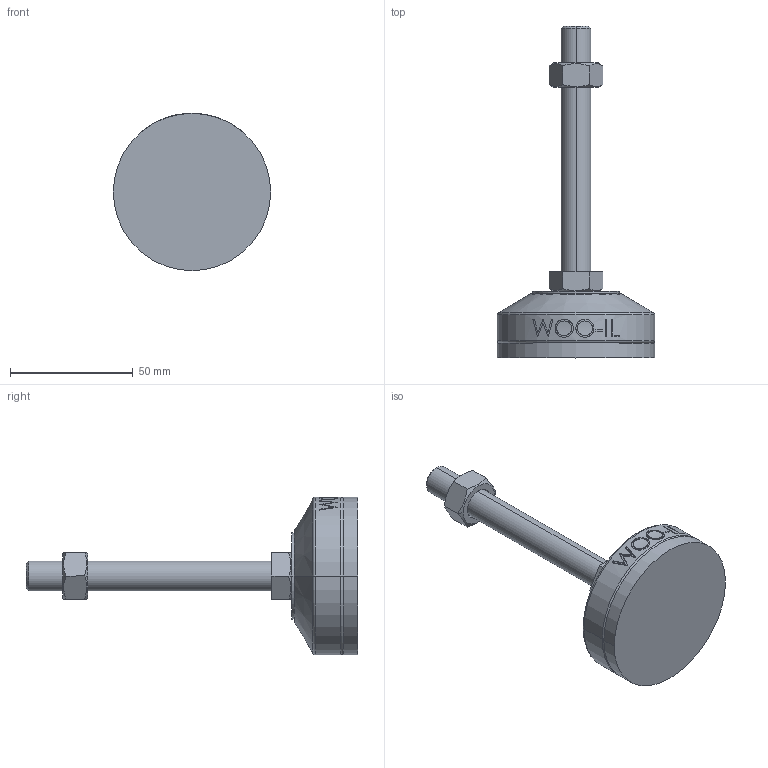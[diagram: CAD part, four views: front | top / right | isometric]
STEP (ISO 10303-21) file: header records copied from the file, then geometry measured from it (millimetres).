
FILE_DESCRIPTION (( 'STEP AP214' ), '1' );
FILE_NAME ('MFZR64-M12-100.step', '2021-03-29T06:54:50', ( '' ), ( '' ), 'SwSTEP 2.0', 'SolidWorks 2019', '' );
FILE_SCHEMA (( 'AUTOMOTIVE_DESIGN' ));
Length unit declared in the file: millimetre
Products named in the file (2): MFZR64-M12-100
Bounding box: 64 x 135 x 64 mm (x, y, z)
Volume: 90923.4 mm3; surface area: 23091.7 mm2
Topology: 4 solids, 4 shells, 103 faces, 235 edges, 150 vertices
Faces by surface type: plane 49, cylinder 18, bspline 16, cone 14, torus 6
Entity records: 4435 total; most frequent: CARTESIAN_POINT 2162, ORIENTED_EDGE 470, DIRECTION 417, EDGE_CURVE 235, AXIS2_PLACEMENT_3D 159, VERTEX_POINT 150, EDGE_LOOP 115, FACE_OUTER_BOUND 103
